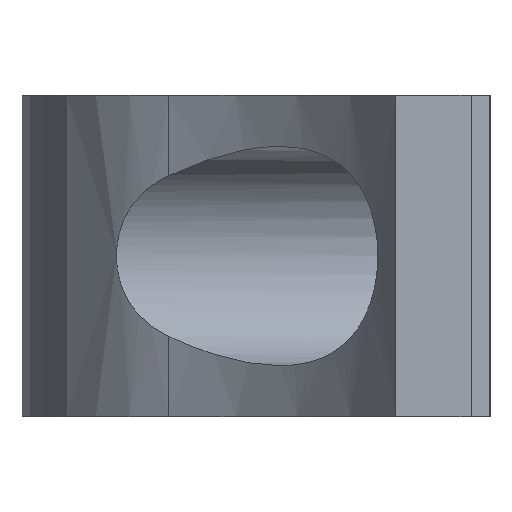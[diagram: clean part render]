
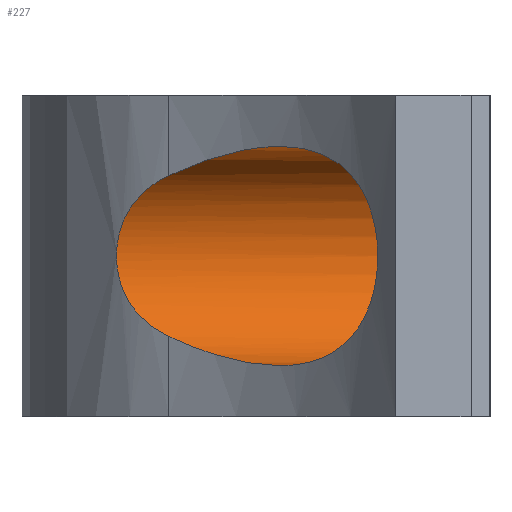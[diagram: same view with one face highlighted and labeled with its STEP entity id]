
A CAD part, left-side view. The second image highlights one B-rep face of the part: STEP entity #227.
In plain terms, the highlighted cylindrical face has radius 2.9 mm (diameter 5.8 mm), a partial arc.
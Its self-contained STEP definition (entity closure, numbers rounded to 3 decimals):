
#2 = VECTOR ( 'NONE', #658, 1000. ) ;
#29 = DIRECTION ( 'NONE',  ( 0., 0., -1. ) ) ;
#33 = VERTEX_POINT ( 'NONE', #272 ) ;
#42 = DIRECTION ( 'NONE',  ( 0., -1., 0. ) ) ;
#50 = CARTESIAN_POINT ( 'NONE',  ( -5.616, 9.707, 5.171 ) ) ;
#58 = VECTOR ( 'NONE', #975, 1000. ) ;
#93 = CARTESIAN_POINT ( 'NONE',  ( -6.404, 8.49, 2.123 ) ) ;
#131 = CARTESIAN_POINT ( 'NONE',  ( -5.882, 9.355, 2.755 ) ) ;
#154 = DIRECTION ( 'NONE',  ( 0., 0., -1. ) ) ;
#180 = ORIENTED_EDGE ( 'NONE', *, *, #572, .T. ) ;
#191 = EDGE_CURVE ( 'NONE', #330, #446, #1112, .T. ) ;
#207 = AXIS2_PLACEMENT_3D ( 'NONE', #1134, #42, #154 ) ;
#214 = DIRECTION ( 'NONE',  ( 0., -1., 0. ) ) ;
#222 = AXIS2_PLACEMENT_3D ( 'NONE', #967, #214, #29 ) ;
#226 = CARTESIAN_POINT ( 'NONE',  ( -5.505, 9.841, 4.726 ) ) ;
#227 = ADVANCED_FACE ( 'NONE', ( #860 ), #248, .F. ) ;
#243 = CARTESIAN_POINT ( 'NONE',  ( -5.696, 9.606, 5.38 ) ) ;
#248 = CYLINDRICAL_SURFACE ( 'NONE', #207, 2.9 ) ;
#249 = B_SPLINE_CURVE_WITH_KNOTS ( 'NONE', 3,
 ( #782, #1148, #324, #697, #512, #1154, #307, #331 ),
 .UNSPECIFIED., .F., .F.,
 ( 4, 2, 2, 4 ),
 ( 0., 0.002, 0.003, 0.004 ),
 .UNSPECIFIED. ) ;
#264 = VERTEX_POINT ( 'NONE', #314 ) ;
#272 = CARTESIAN_POINT ( 'NONE',  ( -8.375, 2.5, 1.35 ) ) ;
#292 = LINE ( 'NONE', #380, #2 ) ;
#295 = EDGE_CURVE ( 'NONE', #595, #330, #888, .T. ) ;
#307 = CARTESIAN_POINT ( 'NONE',  ( -8.177, 5.793, 7.15 ) ) ;
#314 = CARTESIAN_POINT ( 'NONE',  ( -8.375, 2.5, 7.15 ) ) ;
#324 = CARTESIAN_POINT ( 'NONE',  ( -6.953, 7.492, 6.802 ) ) ;
#330 = VERTEX_POINT ( 'NONE', #93 ) ;
#331 = CARTESIAN_POINT ( 'NONE',  ( -8.375, 5.563, 7.15 ) ) ;
#332 = CARTESIAN_POINT ( 'NONE',  ( -6.404, 8.49, 2.123 ) ) ;
#338 = CARTESIAN_POINT ( 'NONE',  ( -5.475, 9.876, 4.485 ) ) ;
#380 = CARTESIAN_POINT ( 'NONE',  ( -8.375, 12.4, 7.15 ) ) ;
#391 = CARTESIAN_POINT ( 'NONE',  ( -8.375, 5.563, 7.15 ) ) ;
#415 = VERTEX_POINT ( 'NONE', #391 ) ;
#435 = CARTESIAN_POINT ( 'NONE',  ( -7.121, 7.24, 1.629 ) ) ;
#445 = CARTESIAN_POINT ( 'NONE',  ( -7.614, 6.505, 1.429 ) ) ;
#446 = VERTEX_POINT ( 'NONE', #649 ) ;
#489 = CIRCLE ( 'NONE', #222, 2.9 ) ;
#501 = CARTESIAN_POINT ( 'NONE',  ( -6.303, 8.687, 2.216 ) ) ;
#506 = CARTESIAN_POINT ( 'NONE',  ( -8.375, 12.4, 1.35 ) ) ;
#507 = CARTESIAN_POINT ( 'NONE',  ( -5.617, 9.705, 3.325 ) ) ;
#512 = CARTESIAN_POINT ( 'NONE',  ( -7.617, 6.515, 7.055 ) ) ;
#535 = CARTESIAN_POINT ( 'NONE',  ( -8.375, 5.563, 1.35 ) ) ;
#572 = EDGE_CURVE ( 'NONE', #595, #33, #689, .T. ) ;
#595 = VERTEX_POINT ( 'NONE', #866 ) ;
#610 = CARTESIAN_POINT ( 'NONE',  ( -5.881, 9.357, 5.744 ) ) ;
#616 = CARTESIAN_POINT ( 'NONE',  ( -6.533, 8.24, 2.004 ) ) ;
#619 = CARTESIAN_POINT ( 'NONE',  ( -6.67, 7.99, 1.898 ) ) ;
#629 = EDGE_CURVE ( 'NONE', #446, #415, #249, .T. ) ;
#635 = CARTESIAN_POINT ( 'NONE',  ( -7.976, 6.026, 1.35 ) ) ;
#649 = CARTESIAN_POINT ( 'NONE',  ( -6.404, 8.49, 6.377 ) ) ;
#658 = DIRECTION ( 'NONE',  ( 0., -1., 0. ) ) ;
#689 = LINE ( 'NONE', #506, #58 ) ;
#690 = CARTESIAN_POINT ( 'NONE',  ( -5.987, 9.204, 2.595 ) ) ;
#697 = CARTESIAN_POINT ( 'NONE',  ( -7.444, 6.758, 7.002 ) ) ;
#703 = CARTESIAN_POINT ( 'NONE',  ( -5.698, 9.604, 3.117 ) ) ;
#707 = CARTESIAN_POINT ( 'NONE',  ( -6.303, 8.688, 6.284 ) ) ;
#718 = ORIENTED_EDGE ( 'NONE', *, *, #629, .F. ) ;
#734 = CARTESIAN_POINT ( 'NONE',  ( -6.404, 8.49, 2.123 ) ) ;
#782 = CARTESIAN_POINT ( 'NONE',  ( -6.404, 8.49, 6.377 ) ) ;
#783 = CARTESIAN_POINT ( 'NONE',  ( -5.483, 9.867, 4.007 ) ) ;
#860 = FACE_OUTER_BOUND ( 'NONE', #928, .T. ) ;
#866 = CARTESIAN_POINT ( 'NONE',  ( -8.375, 5.563, 1.35 ) ) ;
#872 = ORIENTED_EDGE ( 'NONE', *, *, #1007, .T. ) ;
#888 = B_SPLINE_CURVE_WITH_KNOTS ( 'NONE', 3,
 ( #535, #635, #445, #435, #1185, #619, #616, #734 ),
 .UNSPECIFIED., .F., .F.,
 ( 4, 2, 2, 4 ),
 ( 0.014, 0.016, 0.017, 0.018 ),
 .UNSPECIFIED. ) ;
#894 = EDGE_CURVE ( 'NONE', #415, #264, #292, .T. ) ;
#923 = ORIENTED_EDGE ( 'NONE', *, *, #191, .F. ) ;
#928 = EDGE_LOOP ( 'NONE', ( #1101, #718, #923, #1044, #180, #872 ) ) ;
#967 = CARTESIAN_POINT ( 'NONE',  ( -8.375, 2.5, 4.25 ) ) ;
#971 = CARTESIAN_POINT ( 'NONE',  ( -5.475, 9.876, 4.127 ) ) ;
#975 = DIRECTION ( 'NONE',  ( 0., -1., 0. ) ) ;
#981 = CARTESIAN_POINT ( 'NONE',  ( -5.986, 9.205, 5.903 ) ) ;
#1007 = EDGE_CURVE ( 'NONE', #33, #264, #489, .T. ) ;
#1044 = ORIENTED_EDGE ( 'NONE', *, *, #295, .F. ) ;
#1067 = CARTESIAN_POINT ( 'NONE',  ( -5.534, 9.806, 3.656 ) ) ;
#1073 = CARTESIAN_POINT ( 'NONE',  ( -6.404, 8.49, 6.377 ) ) ;
#1101 = ORIENTED_EDGE ( 'NONE', *, *, #894, .F. ) ;
#1112 = B_SPLINE_CURVE_WITH_KNOTS ( 'NONE', 3,
 ( #332, #501, #1142, #690, #131, #703, #507, #1067, #1155, #783, #971, #338, #226, #50, #243, #610, #981, #1161, #707, #1073 ),
 .UNSPECIFIED., .F., .F.,
 ( 4, 2, 2, 2, 2, 2, 2, 2, 2, 4 ),
 ( 0., 0.001, 0.001, 0.002, 0.002, 0.003, 0.004, 0.004, 0.005, 0.006 ),
 .UNSPECIFIED. ) ;
#1134 = CARTESIAN_POINT ( 'NONE',  ( -8.375, 12.4, 4.25 ) ) ;
#1142 = CARTESIAN_POINT ( 'NONE',  ( -6.197, 8.87, 2.327 ) ) ;
#1148 = CARTESIAN_POINT ( 'NONE',  ( -6.662, 7.989, 6.616 ) ) ;
#1154 = CARTESIAN_POINT ( 'NONE',  ( -7.984, 6.032, 7.13 ) ) ;
#1155 = CARTESIAN_POINT ( 'NONE',  ( -5.512, 9.832, 3.771 ) ) ;
#1161 = CARTESIAN_POINT ( 'NONE',  ( -6.196, 8.872, 6.171 ) ) ;
#1185 = CARTESIAN_POINT ( 'NONE',  ( -6.964, 7.49, 1.71 ) ) ;
